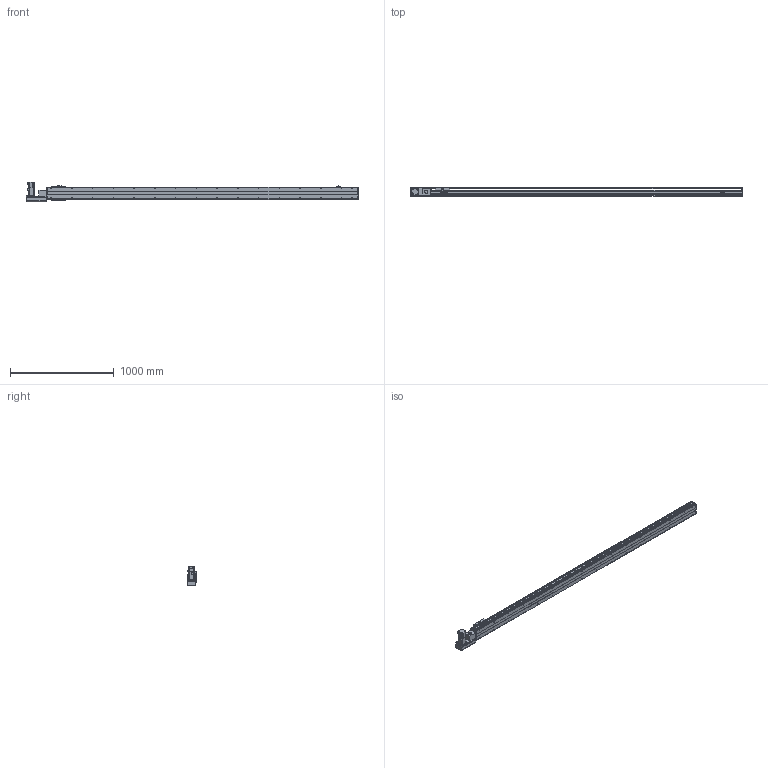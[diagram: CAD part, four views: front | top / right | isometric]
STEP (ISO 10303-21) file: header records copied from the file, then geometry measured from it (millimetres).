
FILE_DESCRIPTION( ( 'STEP AP214' ), '1' );
FILE_NAME( 'x:/temp/worker_26/temp/exporttempdir_3776_78_pfcNg/format_0/PBS120-P40-S2700-L-T40-C1-N(0).stp', '2022-06-05T00:30:00', ( 'License CC BY-ND 4.0' ), ( 'CADENAS' ), ' ', 'PARTsolutions', ' ' );
FILE_SCHEMA( ( 'AUTOMOTIVE_DESIGN { 1 0 10303 214 1 1 1 1 }' ) );
Length unit declared in the file: millimetre
Products named in the file (7): PBS120-P40-S2700-L-T40-C1-N(0); _PBS120-S2700()_body; _PBS120T-L_motors; _T40-p1; _PBS120_sliser; _PBS120_plant; _PBS120_sensor
Assembly tree (8 placements, depth 2):
  PBS120-P40-S2700-L-T40-C1-N(0)
    _PBS120-S2700()_body
    _PBS120T-L_motors
    _T40-p1
    _PBS120_sliser
    _PBS120_plant
    _PBS120_sensor  x3
Bounding box: 3201 x 83 x 189.7 mm (x, y, z)
Volume: 11494608.1 mm3; surface area: 2384698.3 mm2
Topology: 8 solids, 8 shells, 876 faces, 2236 edges, 1435 vertices
Faces by surface type: plane 565, cylinder 245, cone 64, torus 2
Full cylindrical faces by diameter (mm): 2.459 x6, 3.242 x4, 4 x2, 4.134 x4, 4.5 x10, 4.917 x36, 5.5 x11, 6 x2, 6.6 x1, 7 x2, 8.5 x4, 9 x4, 12 x1, 14 x1, 30 x2, 40 x1, 50 x2
Entity records: 28668 total; most frequent: DIRECTION 3932, CARTESIAN_POINT 3821, ORIENTED_EDGE 3598, EDGE_CURVE 1799, AXIS2_PLACEMENT_3D 1352, VERTEX_POINT 1241, LINE 1228, VECTOR 1228
